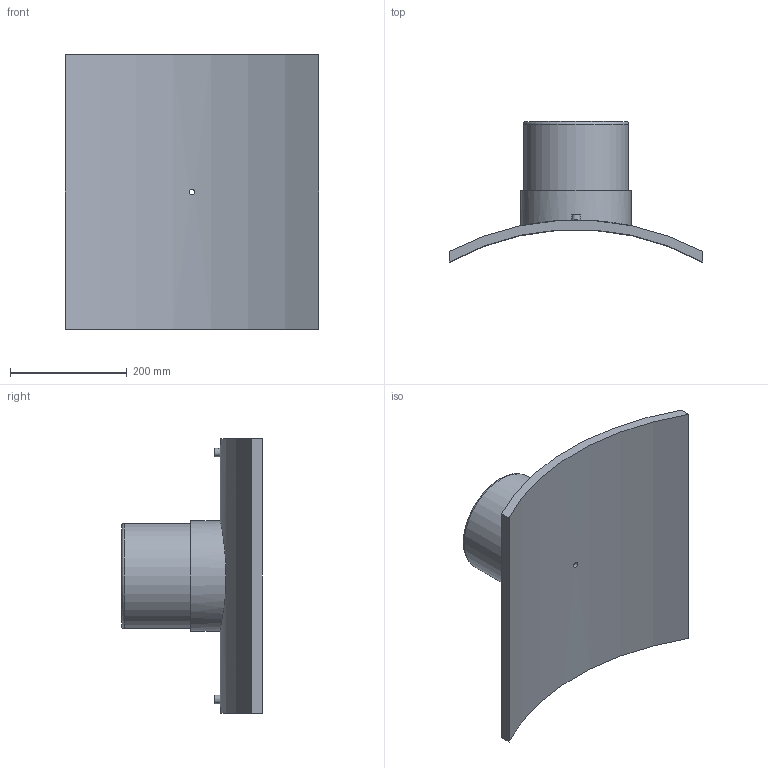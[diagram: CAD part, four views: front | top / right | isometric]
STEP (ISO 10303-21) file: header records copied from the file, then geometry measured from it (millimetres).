
FILE_DESCRIPTION(/* description */ ('PLASSON BRANCH SADDLE 900x180'),/* implementation_level */ '2;1');
FILE_NAME(/* name */ 'C:\Dropbox\99-16-3568-Processing\ElectroFusion Fittings\495803\495803900180T.ipt.stp',/* time_stamp */ '2021-02-25T09:46:02+02:00',/* author */ ('KIM'),/* organization */ (''),/* preprocessor_version */ 'ST-DEVELOPER v17.2',/* originating_system */ 'Autodesk Inventor 2019',/* authorisation */ '');
FILE_SCHEMA (('AUTOMOTIVE_DESIGN { 1 0 10303 214 3 1 1 }'));
Length unit declared in the file: millimetre
Products named in the file (1): 495803900180T
Bounding box: 435 x 241.05 x 470 mm (x, y, z)
Volume: 5140642.1 mm3; surface area: 642331.2 mm2
Topology: 1 solids, 1 shells, 29 faces, 60 edges, 43 vertices
Faces by surface type: plane 13, cylinder 12, torus 2, cone 2
Full cylindrical faces by diameter (mm): 4 x2, 9.6 x1, 10 x2, 16 x1, 144 x1, 180 x1, 189 x1
Entity records: 1086 total; most frequent: CARTESIAN_POINT 400, DIRECTION 139, ORIENTED_EDGE 120, EDGE_CURVE 60, AXIS2_PLACEMENT_3D 60, VERTEX_POINT 43, EDGE_LOOP 41, CIRCLE 30
